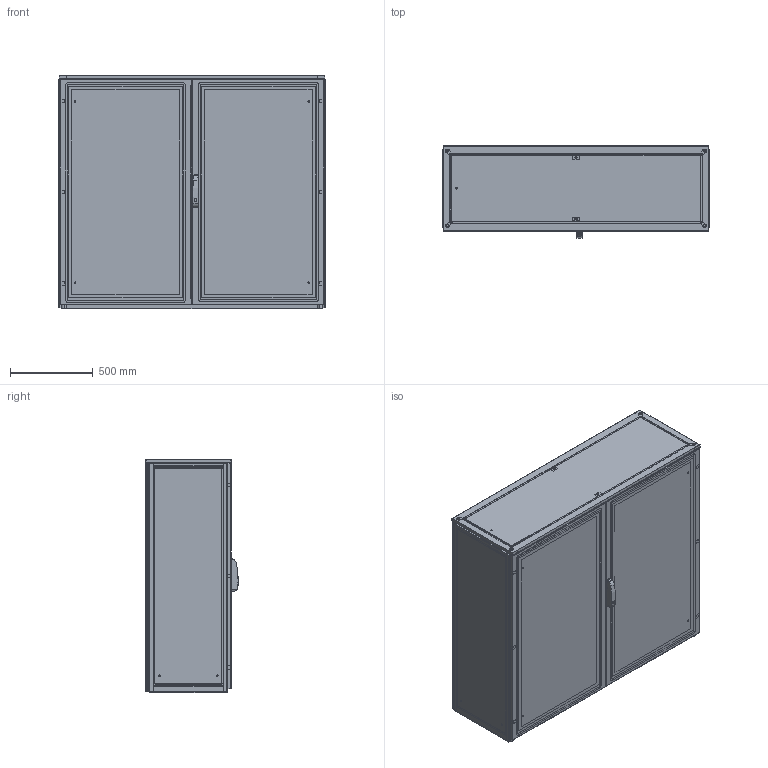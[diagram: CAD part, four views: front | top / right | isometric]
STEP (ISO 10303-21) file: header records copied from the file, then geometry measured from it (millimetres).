
FILE_DESCRIPTION(/* description */ ('STEP AP214'),/* implementation_level */ '2;1');
FILE_NAME(/* name */ 'ENUX161405PR -LOD350',/* time_stamp */ '2025-10-06T10:16:29+02:00',/* author */ ('License CC BY-ND 4.0'),/* organization */ ('CADENAS'),/* preprocessor_version */ 'ST-DEVELOPER v19.3',/* originating_system */ 'PARTsolutions',/* authorisation */ ' ');
FILE_SCHEMA (('AUTOMOTIVE_DESIGN {1 0 10303 214 3 1 1}'));
Length unit declared in the file: millimetre
Products named in the file (11): ENUX161405PR  -LOD350; ENUX161405PR  -LOD3501; ENUX161405PR  -LOD3507; ENUX161405PR  -LOD3502; ENUX161405PR  -LOD35011; ENUX161405PR  -LOD3503; ENUX161405PR  -LOD3508; ENUX161405PR  -LOD3505; ENUX161405PR  -LOD3504; ENUX161405PR  -LOD35010; ENUX161405PR  -LOD3509
Assembly tree (17 placements, depth 2):
  ENUX161405PR  -LOD350
    ENUX161405PR  -LOD3501
    ENUX161405PR  -LOD3507  x2
    ENUX161405PR  -LOD3502
    ENUX161405PR  -LOD35011
    ENUX161405PR  -LOD3503
    ENUX161405PR  -LOD3508
    ENUX161405PR  -LOD3505
    ENUX161405PR  -LOD3504
    ENUX161405PR  -LOD35010  x4
    ENUX161405PR  -LOD3509  x4
Bounding box: 1612 x 557 x 1408.5 mm (x, y, z)
Volume: 28406443.3 mm3; surface area: 21864252.7 mm2
Topology: 17 solids, 24 shells, 1504 faces, 4051 edges, 2648 vertices
Faces by surface type: plane 902, cylinder 552, torus 30, cone 12, sphere 8
Full cylindrical faces by diameter (mm): 6 x15, 9 x13, 12 x4, 14 x2, 17 x2, 28 x2
Entity records: 36158 total; most frequent: CARTESIAN_POINT 6621, DIRECTION 6139, ORIENTED_EDGE 6046, EDGE_CURVE 3023, AXIS2_PLACEMENT_3D 2049, LINE 2041, VECTOR 2041, VERTEX_POINT 1998
